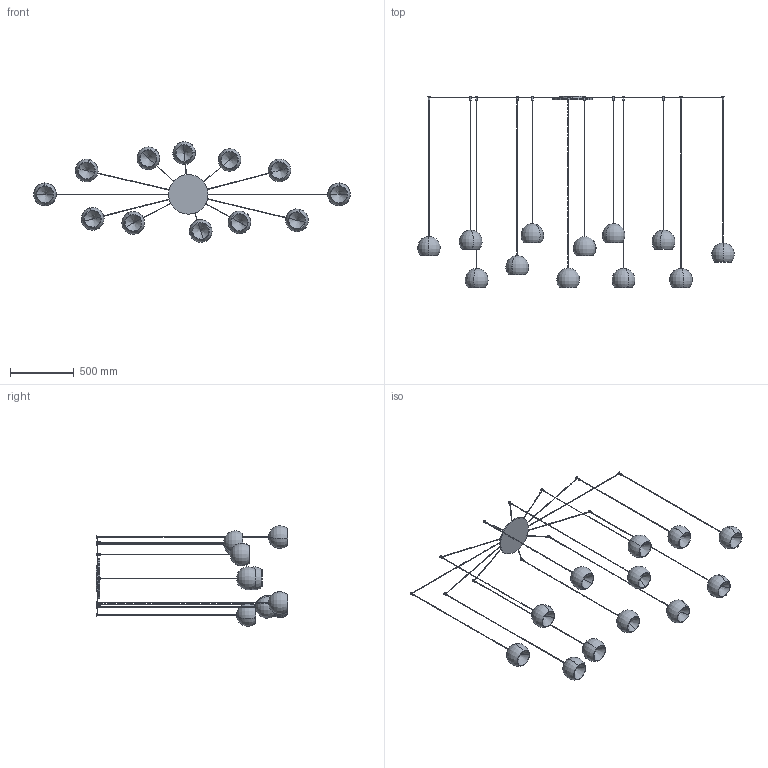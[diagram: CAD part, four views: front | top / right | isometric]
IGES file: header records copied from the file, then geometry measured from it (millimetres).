
Start section: SolidWorks IGES file using analytic representation for surfaces
Global section: file name: Y:\eforma\TECNICO\SOLIDWORKS\E-FORMA\09-LAMPADE\CHERRY\02 parts\CHRA2-00-CHERRY_12 sospensione.IGS; native system: SolidWorks 2022; preprocessor: SolidWorks 2022; author: eforma.tech; date: 250506.081651; units: millimetre
Bounding box: 2483.72 x 1500 x 789.13 mm (x, y, z)
Volume: 3750701.5 mm3; surface area: 2968772.4 mm2
Topology: 61 solids, 61 shells, 449 faces, 950 edges, 600 vertices
Faces by surface type: revolution 302, plane 147
